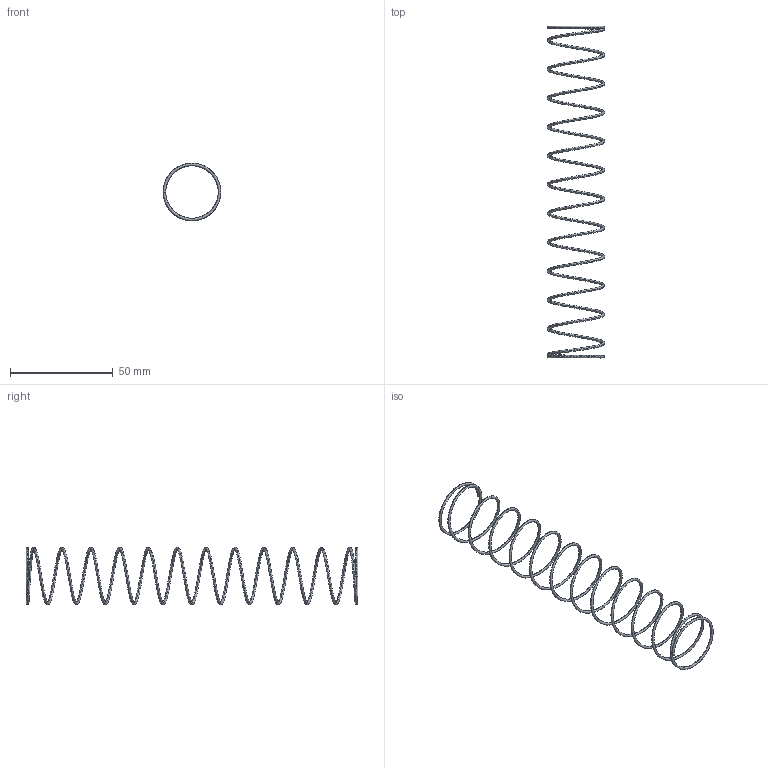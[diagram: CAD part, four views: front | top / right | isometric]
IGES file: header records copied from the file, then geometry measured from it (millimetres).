
Global section: file name: SPK25160.ipt; native system: Autodesk Inventor 2021; preprocessor: unknown; author: SM; date: 20211217.130012; units: millimetre
Bounding box: 27.9 x 161.2 x 27.91 mm (x, y, z)
Volume: 1278.3 mm3; surface area: 4288.3 mm2
Topology: 1 solids, 1 shells, 4 faces, 12 edges, 8 vertices
Faces by surface type: bspline 2, plane 2
